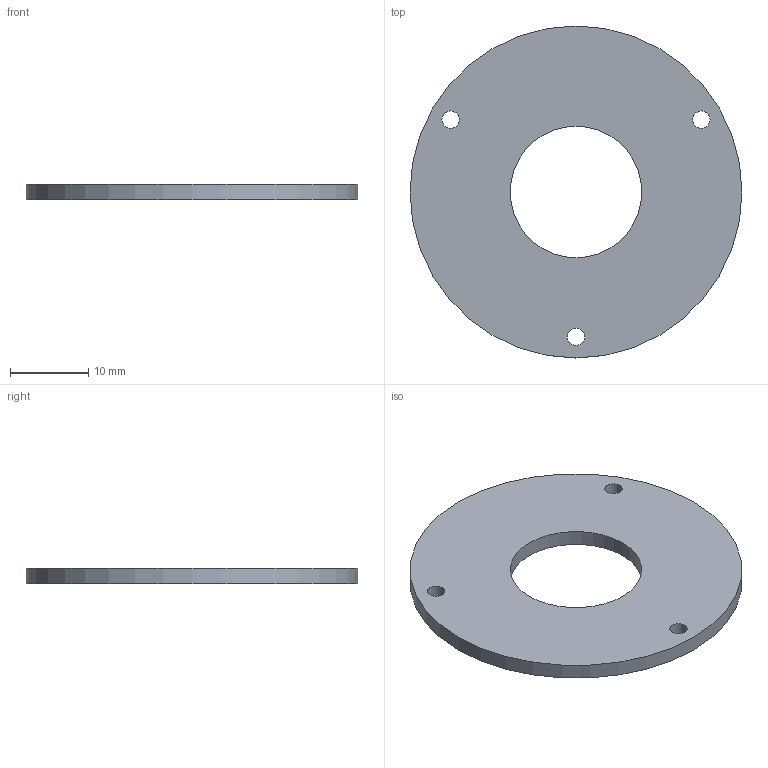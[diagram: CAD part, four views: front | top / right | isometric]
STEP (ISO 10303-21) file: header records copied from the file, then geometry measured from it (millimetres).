
FILE_DESCRIPTION(('Open CASCADE Model'),'2;1');
FILE_NAME('CH_cover','2026-11-05T16:12:29',('Author'),('Open CASCADE'), 'Open CASCADE STEP processor 7.9','build123d','Unknown');
FILE_SCHEMA(('AUTOMOTIVE_DESIGN { 1 0 10303 214 1 1 1 1 }'));
Length unit declared in the file: millimetre
Products named in the file (2): CH_cover
Assembly tree (1 placements, depth 2):
  CH_cover
    CH_cover
Bounding box: 42.4 x 42.4 x 2 mm (x, y, z)
Volume: 2357.8 mm3; surface area: 2771.2 mm2
Topology: 1 solids, 1 shells, 7 faces, 15 edges, 10 vertices
Faces by surface type: cylinder 5, plane 2
Full cylindrical faces by diameter (mm): 2.2 x3, 16.8 x1, 42.4 x1
Entity records: 462 total; most frequent: DIRECTION 73, CARTESIAN_POINT 64, ORIENTED_EDGE 30, PCURVE 30, DEFINITIONAL_REPRESENTATION 30, LINE 25, VECTOR 25, CIRCLE 20
